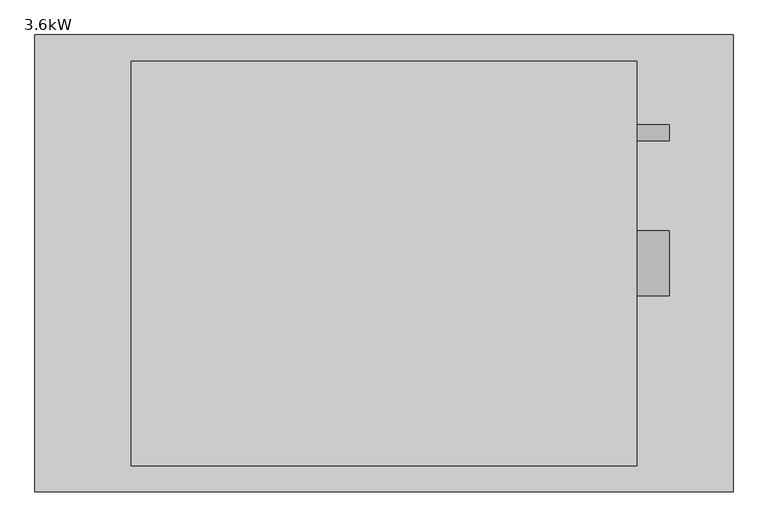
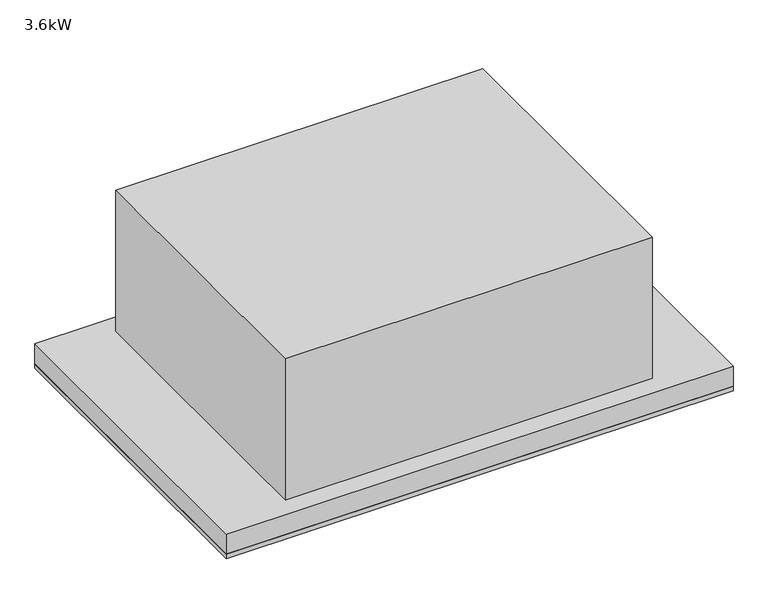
"""IFC4 building model written with IfcOpenShell, lengths in millimetres: unitary equipment geometry, 07052_PAC-CK2_屋内機_カセット形(2方向) : 3.6kW."""

from ifc_helpers import new_model, si_unit, point, frame, frame_2d, origin, origin_with_axes, place, context, project, spatial, polyline, circle_curve, trimmed, segment, composite_curve, outline, extrude, source, transform, mapped, element, save


def unitary_equipment_3_6kw_0fb93bb2(model_context):
    return source(origin(), model_context, "Body", "SweptSolid", [
        extrude(outline(composite_curve([segment(trimmed(circle_curve(frame_2d((200.0, 250.0)), 12.5), [point((187.5, 250.0))], [point((212.5, 250.0))], False, "CARTESIAN"), True, "CONTINUOUS"), segment(trimmed(circle_curve(frame_2d((200.0, 250.0)), 12.5), [point((212.5, 250.0))], [point((187.5, 250.0))], False, "CARTESIAN"), True, "CONTINUOUS")], self_intersect=False)), frame((387.5, 0.0, 0.0), z_axis=(1.0, 0.0, 0.0), x_axis=(0.0, 1.0, 0.0)), (0.0, 0.0, 1.0), 50.0),
        extrude(outline(composite_curve([segment(trimmed(circle_curve(frame_2d((0.0, 150.0)), 50.0), [point((-50.0, 150.0))], [point((50.0, 150.0))], False, "CARTESIAN"), True, "CONTINUOUS"), segment(trimmed(circle_curve(frame_2d((0.0, 150.0)), 50.0), [point((50.0, 150.0))], [point((-50.0, 150.0))], False, "CARTESIAN"), True, "CONTINUOUS")], self_intersect=False)), frame((387.5, 0.0, 0.0), z_axis=(1.0, 0.0, 0.0), x_axis=(0.0, 1.0, 0.0)), (0.0, 0.0, 1.0), 50.0),
        extrude(outline(polyline([(535.0, 350.0), (535.0, -350.0), (-535.0, -350.0), (-535.0, 350.0), (535.0, 350.0)])), frame((0.0, 0.0, -10.0), z_axis=(0.0, 0.0, 1.0), x_axis=(1.0, 0.0, 0.0)), (0.0, 0.0, 1.0), 10.0),
        extrude(outline(polyline([(387.5, 310.0), (387.5, -310.0), (-387.5, -310.0), (-387.5, 310.0), (387.5, 310.0)])), frame((0.0, 0.0, 45.0), z_axis=(0.0, 0.0, 1.0), x_axis=(1.0, 0.0, 0.0)), (0.0, 0.0, 1.0), 315.0),
        extrude(outline(polyline([(535.0, 350.0), (535.0, -350.0), (-535.0, -350.0), (-535.0, 350.0), (535.0, 350.0)])), origin_with_axes(), (0.0, 0.0, 1.0), 45.0),
    ])


if __name__ == "__main__":
    model = new_model("IFC4")
    model_context = context("Model", 3, world=origin())
    ifc_project = project(units=[si_unit("LENGTHUNIT", "METRE", prefix="MILLI")], contexts=[model_context])
    site = spatial("IfcSite", under=ifc_project)
    building = spatial("IfcBuilding", under=site)
    placement = place(None, origin())
    unitary_equipment_3_6kw_shape = unitary_equipment_3_6kw_0fb93bb2(model_context)
    element("IfcUnitaryEquipment", 1, ObjectType="07052_PAC-CK2_屋内機_カセット形(2方向) : 3.6kW", at=placement, inside=building, context=model_context, shape_type="MappedRepresentation", body=[
        mapped(unitary_equipment_3_6kw_shape, transform((0.0, 0.0, 0.0), x_axis=(1.0, 0.0, 0.0), y_axis=(0.0, 1.0, 0.0), z_axis=(0.0, 0.0, 1.0))),
    ])
    save(model, "model.ifc")
